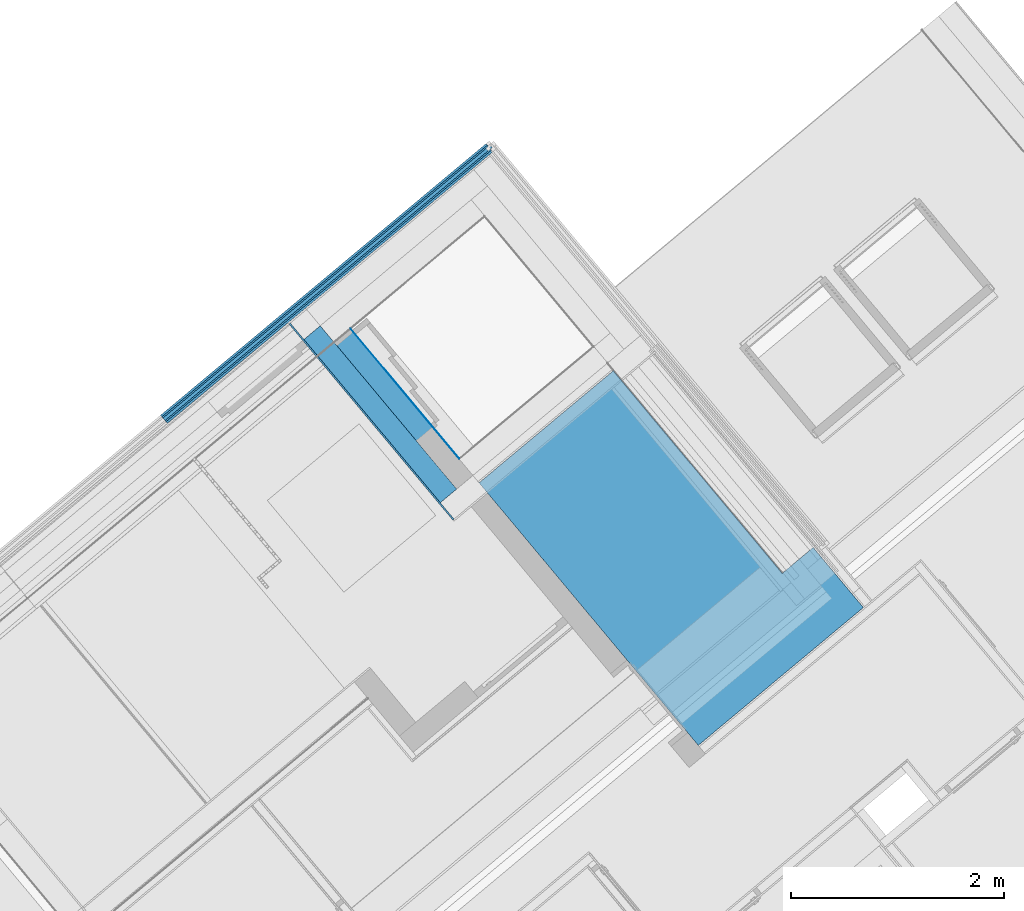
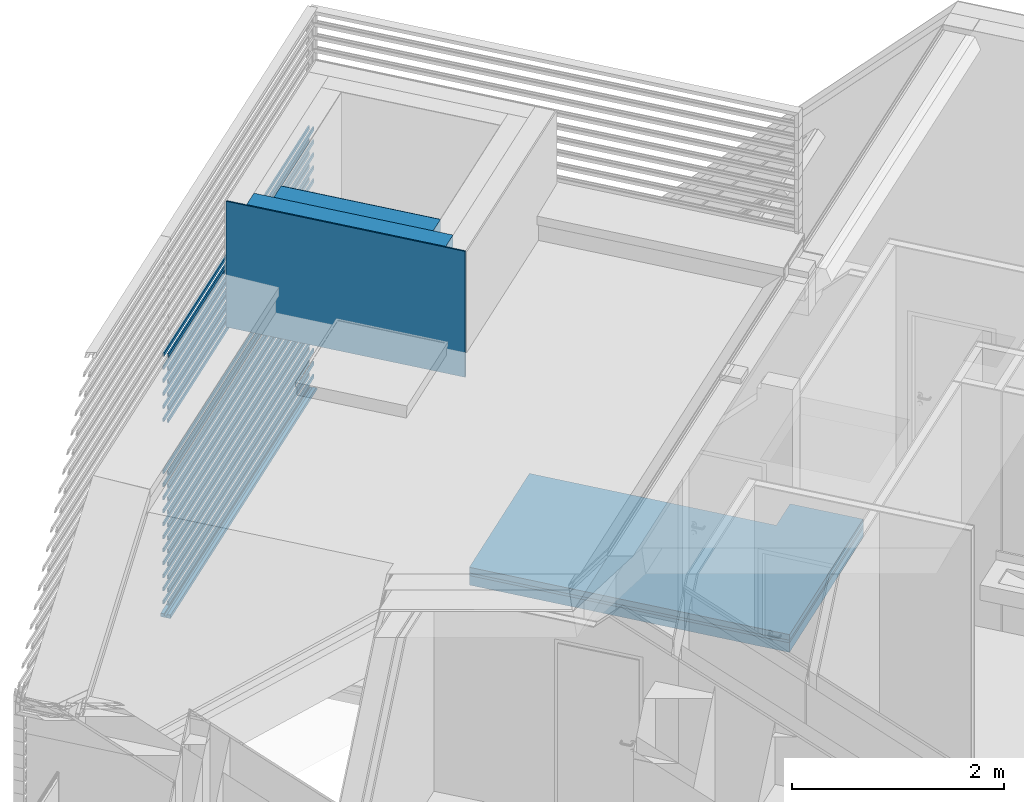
# One storey, part 28 of 50: 25 building element parts, 3 elements without a shape of their own.
"""IFC4 building model written with IfcOpenShell, lengths in metres."""

from ifc_helpers import new_model, entity, si_unit, converted_unit, derived_unit, direction, frame, origin_with_axes, place, context, subcontext, project, spatial, polygons, material, type_object, element, aggregate, save


model = new_model("IFC4")

# Units and contexts
model_context = context("Model", 3, precision=1e-05, world=origin_with_axes(), true_north=direction((0.0, 1.0)))
body_context = subcontext(model_context, "Body", "Model", "MODEL_VIEW")
ifc_project = project(units=[si_unit("LENGTHUNIT", "METRE"), si_unit("AREAUNIT", "SQUARE_METRE"), si_unit("VOLUMEUNIT", "CUBIC_METRE"), converted_unit("PLANEANGLEUNIT", "DEGREE", entity("IfcPlaneAngleMeasure", 0.0174532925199), si_unit("PLANEANGLEUNIT", "RADIAN"), dimensions=[0, 0, 0, 0, 0, 0, 0]), converted_unit("TIMEUNIT", "Year", entity("IfcTimeMeasure", 31556926.0), si_unit("TIMEUNIT", "SECOND"), dimensions=[0, 0, 1, 0, 0, 0, 0]), si_unit("MASSUNIT", "GRAM", prefix="KILO"), si_unit("THERMODYNAMICTEMPERATUREUNIT", "DEGREE_CELSIUS"), si_unit("LUMINOUSINTENSITYUNIT", "LUMEN"), si_unit("ENERGYUNIT", "JOULE", prefix="MEGA"), derived_unit("THERMALCONDUCTANCEUNIT", [(si_unit("POWERUNIT", "WATT"), 1), (si_unit("LENGTHUNIT", "METRE"), -1), (si_unit("THERMODYNAMICTEMPERATUREUNIT", "KELVIN"), -1)]), derived_unit("SPECIFICHEATCAPACITYUNIT", [(si_unit("ENERGYUNIT", "JOULE"), 1), (si_unit("MASSUNIT", "GRAM", prefix="KILO"), -1), (si_unit("THERMODYNAMICTEMPERATUREUNIT", "KELVIN"), -1)]), derived_unit("MASSDENSITYUNIT", [(si_unit("MASSUNIT", "GRAM", prefix="KILO"), 1), (si_unit("VOLUMEUNIT", "CUBIC_METRE"), -1)])], contexts=[model_context])

# Site, building, storey, space
site_placement = place(None, frame((-0.00153261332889, -0.00661245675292, 0.0), z_axis=(0.0, 0.0, 1.0), x_axis=(1.0, 0.0, 0.0)))
site = spatial("IfcSite", under=ifc_project, at=site_placement, Name="Gelände", CompositionType="ELEMENT")
building_placement = place(site_placement, origin_with_axes())
building = spatial("IfcBuilding", under=site, at=building_placement, Name="Gebäude", CompositionType="ELEMENT")
storey_placement = place(building_placement, frame((0.0, 0.0, 8.66), z_axis=(0.0, 0.0, 1.0), x_axis=(1.0, 0.0, 0.0)))
storey = spatial("IfcBuildingStorey", under=building, at=storey_placement, Name="DG2", CompositionType="ELEMENT", Elevation=8.66)
space_1_placement = place(storey_placement, frame((2.62853065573, 25.842931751, 0.00145373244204), z_axis=(0.0, 0.0, 1.0), x_axis=(-0.641209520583, 0.767365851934, 0.0)))
space_1 = spatial("IfcSpace", under=storey, at=space_1_placement, CompositionType="ELEMENT", PredefinedType="NOTDEFINED")

# Wall, building element parts
wall_type = type_object("IfcWallType", Name="AW EG 420", PredefinedType="NOTDEFINED")
wall_placement = place(space_1_placement, frame((-2.89194951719e-06, 1.64863602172, 2.68854626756), z_axis=(0.0, 0.0, 1.0), x_axis=(0.999999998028, -6.27933155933e-05, 0.0)))
wall = element("IfcWall", 1, at=wall_placement, inside=space_1, type_object=wall_type, Name="Wand-002", PredefinedType="NOTDEFINED")
ifc_material_1 = material(Name="Zementputz")
building_element_part_1_placement = place(wall_placement, origin_with_axes())
building_element_part_1 = element("IfcBuildingElementPart", 2, at=building_element_part_1_placement, material=ifc_material_1, Name="Zementputz", PredefinedType="NOTDEFINED", context=body_context, shape_type="Tessellation", body=[
    polygons([(2.00111863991, 0.415, 1.45), (-0.400033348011, 0.415, 1.45), (-0.400032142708, 0.4, 1.45), (2.00111958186, 0.4, 1.45), (2.00111863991, 0.415, 0.0), (-0.400033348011, 0.415, 0.0), (-0.400032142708, 0.4, 0.0), (2.00111958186, 0.4, 0.0)], [[[1, 2, 3, 4]], [[5, 6, 2, 1]], [[3, 2, 6, 7]], [[4, 3, 7, 8]], [[4, 8, 5, 1]], [[8, 7, 6, 5]]], closed=True),
])
ifc_material_2 = material(Name="EPS 1")
building_element_part_2_placement = place(wall_placement, origin_with_axes())
building_element_part_2 = element("IfcBuildingElementPart", 3, at=building_element_part_2_placement, material=ifc_material_2, Name="EPS 1", PredefinedType="NOTDEFINED", context=body_context, shape_type="Tessellation", body=[
    polygons([(1.80111958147, 0.4, 1.45), (-0.200032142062, 0.4, 1.45), (-0.200016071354, 0.2, 1.45), (1.80113214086, 0.2, 1.45), (1.80111958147, 0.4, 0.0), (-0.200032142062, 0.4, 0.0), (-0.200016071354, 0.2, 0.0), (1.80113214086, 0.2, 0.0)], [[[1, 2, 3, 4]], [[5, 6, 2, 1]], [[3, 2, 6, 7]], [[4, 3, 7, 8]], [[4, 8, 5, 1]], [[8, 7, 6, 5]]], closed=True),
])
ifc_material_3 = material(Name="Stahlbeton Wand")
building_element_part_3_placement = place(wall_placement, origin_with_axes())
building_element_part_3 = element("IfcBuildingElementPart", 4, at=building_element_part_3_placement, material=ifc_material_3, Name="Stahlbeton Wand", PredefinedType="NOTDEFINED", context=body_context, shape_type="Tessellation", body=[
    polygons([(1.60113214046, 0.2, 1.45), (-1.60707081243e-05, 0.2, 1.45), (0.0, 0.0, 1.45), (1.60114469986, 0.0, 1.45), (1.60113214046, 0.2, 0.0), (-1.60707081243e-05, 0.2, 0.0), (0.0, 0.0, 0.0), (1.60114469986, 0.0, 0.0)], [[[1, 2, 3, 4]], [[5, 6, 2, 1]], [[3, 2, 6, 7]], [[4, 3, 7, 8]], [[4, 8, 5, 1]], [[8, 7, 6, 5]]], closed=True),
])
building_element_part_4_placement = place(wall_placement, origin_with_axes())
building_element_part_4 = element("IfcBuildingElementPart", 5, at=building_element_part_4_placement, material=ifc_material_1, Name="Zementputz", PredefinedType="NOTDEFINED", context=body_context, shape_type="Tessellation", body=[
    polygons([(1.59614469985, 0.0, 1.45), (0.00500000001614, 0.0, 1.45), (0.00500040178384, -0.005, 1.45), (1.59614501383, -0.005, 1.45), (1.59614469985, 0.0, 0.0), (0.00500000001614, 0.0, 0.0), (0.00500040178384, -0.005, 0.0), (1.59614501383, -0.005, 0.0)], [[[1, 2, 3, 4]], [[5, 6, 2, 1]], [[3, 2, 6, 7]], [[4, 3, 7, 8]], [[4, 8, 5, 1]], [[8, 7, 6, 5]]], closed=True),
])
aggregate(wall, [building_element_part_1, building_element_part_2, building_element_part_3, building_element_part_4])

# Covering, building element parts
covering_type = type_object("IfcCoveringType", Name="DE 01 Decke Wohnung/Wohnung Fließen 220", PredefinedType="NOTDEFINED")
covering_placement = place(storey_placement, frame((3.60991174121, 22.0934424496, 0.22), z_axis=(0.0, 0.0, 1.0), x_axis=(1.0, 0.0, 0.0)))
covering = element("IfcCovering", 6, at=covering_placement, inside=storey, type_object=covering_type, Name="Decke-004", PredefinedType="NOTDEFINED")
ifc_material_4 = material(Name="Estrich")
building_element_part_5_placement = place(covering_placement, origin_with_axes())
building_element_part_5 = element("IfcBuildingElementPart", 7, at=building_element_part_5_placement, material=ifc_material_4, Name="Estrich", PredefinedType="NOTDEFINED", context=body_context, shape_type="Tessellation", body=[
    polygons([(1.08078187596, 1.86196508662, -0.08), (1.08078187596, 1.86196508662, -0.015), (1.55327238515, 1.29666046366, -0.015), (1.55327238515, 1.29666046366, -0.08), (0.791211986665, 1.62021476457, -0.08), (0.791211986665, 1.62021476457, -0.015), (-0.798520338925, 3.52440504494, -0.015), (-2.06187332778, 2.46976717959, -0.015), (-1.03746435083, 1.24278079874, -0.015), (-1.02789098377, 1.23123293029, -0.015), (0.0, 0.0, -0.015), (0.0, 0.0, -0.08), (-1.02785167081, 1.23126574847, -0.08), (-1.03750400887, 1.2427476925, -0.08), (-2.06187332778, 2.46976717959, -0.08), (-0.798520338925, 3.52440504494, -0.08)], [[[1, 2, 3, 4]], [[2, 1, 5, 6]], [[2, 6, 7, 8, 9, 10, 11, 3]], [[3, 11, 12, 4]], [[1, 4, 12, 13, 14, 15, 16, 5]], [[16, 7, 6, 5]], [[8, 7, 16, 15]], [[8, 15, 9]], [[9, 14, 10]], [[11, 10, 12]], [[13, 12, 10]], [[13, 10, 14]], [[14, 9, 15]]], closed=True),
])
ifc_material_5 = material(Name="Trittschalldämmung")
building_element_part_6_placement = place(covering_placement, origin_with_axes())
building_element_part_6 = element("IfcBuildingElementPart", 8, at=building_element_part_6_placement, material=ifc_material_5, Name="Trittschalldämmung", PredefinedType="NOTDEFINED", context=body_context, shape_type="Tessellation", body=[
    polygons([(1.08078187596, 1.86196508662, -0.11), (1.08078187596, 1.86196508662, -0.08), (1.55327238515, 1.29666046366, -0.08), (1.55327238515, 1.29666046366, -0.11), (0.791211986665, 1.62021476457, -0.11), (0.791211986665, 1.62021476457, -0.08), (-0.798520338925, 3.52440504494, -0.08), (-2.06187332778, 2.46976717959, -0.08), (-1.03746435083, 1.24278079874, -0.08), (-1.02789098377, 1.23123293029, -0.08), (0.0, 0.0, -0.08), (0.0, 0.0, -0.11), (-1.02785167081, 1.23126574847, -0.11), (-1.03750400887, 1.2427476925, -0.11), (-2.06187332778, 2.46976717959, -0.11), (-0.798520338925, 3.52440504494, -0.11)], [[[1, 2, 3, 4]], [[2, 1, 5, 6]], [[2, 6, 7, 8, 9, 10, 11, 3]], [[3, 11, 12, 4]], [[1, 4, 12, 13, 14, 15, 16, 5]], [[16, 7, 6, 5]], [[8, 7, 16, 15]], [[8, 15, 9]], [[9, 14, 10]], [[11, 10, 12]], [[13, 12, 10]], [[13, 10, 14]], [[14, 9, 15]]], closed=True),
])
ifc_material_6 = material(Name="Schüttung")
building_element_part_7_placement = place(covering_placement, origin_with_axes())
building_element_part_7 = element("IfcBuildingElementPart", 9, at=building_element_part_7_placement, material=ifc_material_6, Name="Schüttung", PredefinedType="NOTDEFINED", context=body_context, shape_type="Tessellation", body=[
    polygons([(1.08078187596, 1.86196508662, -0.22), (1.08078187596, 1.86196508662, -0.11), (1.55327238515, 1.29666046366, -0.11), (1.55327238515, 1.29666046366, -0.22), (0.791211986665, 1.62021476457, -0.22), (0.791211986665, 1.62021476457, -0.11), (-0.798520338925, 3.52440504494, -0.11), (-2.06187332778, 2.46976717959, -0.11), (-1.03746435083, 1.24278079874, -0.11), (-1.02789098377, 1.23123293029, -0.11), (0.0, 0.0, -0.11), (0.0, 0.0, -0.22), (-1.02785167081, 1.23126574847, -0.22), (-1.03750400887, 1.2427476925, -0.22), (-2.06187332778, 2.46976717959, -0.22), (-0.798520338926, 3.52440504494, -0.22)], [[[1, 2, 3, 4]], [[2, 1, 5, 6]], [[2, 6, 7, 8, 9, 10, 11, 3]], [[4, 3, 11, 12]], [[1, 4, 12, 13, 14, 15, 16, 5]], [[16, 7, 6, 5]], [[8, 7, 16, 15]], [[8, 15, 9]], [[9, 14, 10]], [[11, 10, 12]], [[13, 12, 10]], [[13, 10, 14]], [[14, 9, 15]]], closed=True),
])
aggregate(covering, [building_element_part_5, building_element_part_6, building_element_part_7])

# Space
space_2_placement = place(storey_placement, frame((-4.06558748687, 22.1637970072, 0.22), z_axis=(0.0, 0.0, 1.0), x_axis=(-0.767365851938, -0.641209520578, 0.0)))
space_2 = spatial("IfcSpace", under=storey, at=space_2_placement, CompositionType="ELEMENT", PredefinedType="NOTDEFINED")

# Curtain wall, building element parts
curtain_wall_type = type_object("IfcCurtainWallType", Name="Fassadentyp", PredefinedType="NOTDEFINED")
curtain_wall_placement = place(space_2_placement, frame((-1.95298492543, -0.601365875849, 0.1), z_axis=(0.0, 0.0, 1.0), x_axis=(-0.767365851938, 0.641209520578, 0.0)))
curtain_wall = element("IfcCurtainWall", 10, at=curtain_wall_placement, inside=space_2, type_object=curtain_wall_type, Name="Fassade-001", PredefinedType="NOTDEFINED")
ifc_material_7 = material(Name="Blech")
building_element_part_8_placement = place(curtain_wall_placement, origin_with_axes())
building_element_part_8 = element("IfcBuildingElementPart", 11, at=building_element_part_8_placement, material=ifc_material_7, Name="Blech", PredefinedType="NOTDEFINED", context=body_context, shape_type="Tessellation", body=[
    polygons([(4.62335524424, 3.83828163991, 0.0), (4.60799902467, 3.8254681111, 0.02), (4.63042270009, 3.79859472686, 0.02), (4.66113513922, 3.82422178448, -0.02), (4.59706749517, 3.90100288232, -0.02), (4.56635505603, 3.8753758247, 0.02), (4.58877873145, 3.84850244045, 0.02), (4.60413495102, 3.86131596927, 0.0), (1.54752517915, 1.27174910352, 0.0), (1.54752517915, 1.27174910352, 0.02), (1.56994885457, 1.24487571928, 0.02), (1.56994885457, 1.24487571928, -0.02), (1.50588121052, 1.32165681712, -0.02), (1.50588121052, 1.32165681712, 0.02), (1.52830488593, 1.29478343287, 0.02), (1.52830488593, 1.29478343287, 0.0)], [[[1, 2, 3, 4, 5, 6, 7, 8]], [[1, 9, 10, 2]], [[10, 11, 3, 2]], [[11, 12, 4, 3]], [[12, 13, 5, 4]], [[13, 14, 6, 5]], [[7, 6, 14, 15]], [[15, 16, 8, 7]], [[8, 16, 9, 1]], [[9, 16, 15, 14, 13, 12, 11, 10]]], closed=True),
])
building_element_part_9_placement = place(curtain_wall_placement, origin_with_axes())
building_element_part_9 = element("IfcBuildingElementPart", 12, at=building_element_part_9_placement, material=ifc_material_7, Name="Blech", PredefinedType="NOTDEFINED", context=body_context, shape_type="Tessellation", body=[
    polygons([(1.54752517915, 1.27174910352, 2.4), (1.54752517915, 1.27174910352, 2.42), (4.60799902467, 3.8254681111, 2.42), (4.60799902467, 3.8254681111, 2.4), (4.60799902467, 3.8254681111, 2.38), (1.54752517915, 1.27174910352, 2.38), (1.55713532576, 1.26023193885, 2.38), (1.55713532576, 1.26023193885, 2.42), (4.61760917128, 3.81395094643, 2.42), (4.61760917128, 3.81395094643, 2.38)], [[[1, 2, 3, 4, 5, 6]], [[6, 7, 8, 2, 1]], [[3, 2, 8, 9]], [[4, 3, 9, 10, 5]], [[5, 10, 7, 6]], [[9, 8, 7, 10]]], closed=True),
    polygons([(4.58877873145, 3.84850244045, 2.38), (4.57916858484, 3.86001960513, 2.38), (4.57916858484, 3.86001960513, 2.42), (4.58877873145, 3.84850244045, 2.42), (4.58877873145, 3.84850244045, 2.4), (1.52830488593, 1.29478343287, 2.38), (1.51869473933, 1.30630059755, 2.38), (1.51869473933, 1.30630059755, 2.42), (1.52830488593, 1.29478343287, 2.42), (1.52830488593, 1.29478343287, 2.4)], [[[1, 2, 3, 4, 5]], [[6, 7, 2, 1]], [[2, 7, 8, 3]], [[9, 4, 3, 8]], [[5, 4, 9, 10, 6, 1]], [[10, 9, 8, 7, 6]]], closed=True),
])
building_element_part_10_placement = place(curtain_wall_placement, origin_with_axes())
building_element_part_10 = element("IfcBuildingElementPart", 13, at=building_element_part_10_placement, material=ifc_material_7, Name="Blech", PredefinedType="NOTDEFINED", context=body_context, shape_type="Tessellation", body=[
    polygons([(1.54752517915, 1.27174910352, 0.15), (1.54752517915, 1.27174910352, 0.17), (4.60799902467, 3.8254681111, 0.17), (4.60799902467, 3.8254681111, 0.15), (4.60799902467, 3.8254681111, 0.13), (1.54752517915, 1.27174910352, 0.13), (1.55713532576, 1.26023193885, 0.13), (1.55713532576, 1.26023193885, 0.17), (4.61760917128, 3.81395094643, 0.17), (4.61760917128, 3.81395094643, 0.13)], [[[1, 2, 3, 4, 5, 6]], [[6, 7, 8, 2, 1]], [[3, 2, 8, 9]], [[4, 3, 9, 10, 5]], [[5, 10, 7, 6]], [[9, 8, 7, 10]]], closed=True),
    polygons([(4.58877873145, 3.84850244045, 0.13), (4.57916858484, 3.86001960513, 0.13), (4.57916858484, 3.86001960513, 0.17), (4.58877873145, 3.84850244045, 0.17), (4.58877873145, 3.84850244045, 0.15), (1.52830488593, 1.29478343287, 0.13), (1.51869473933, 1.30630059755, 0.13), (1.51869473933, 1.30630059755, 0.17), (1.52830488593, 1.29478343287, 0.17), (1.52830488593, 1.29478343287, 0.15)], [[[1, 2, 3, 4, 5]], [[6, 7, 2, 1]], [[2, 7, 8, 3]], [[9, 4, 3, 8]], [[5, 4, 9, 10, 6, 1]], [[10, 9, 8, 7, 6]]], closed=True),
])
building_element_part_11_placement = place(curtain_wall_placement, origin_with_axes())
building_element_part_11 = element("IfcBuildingElementPart", 14, at=building_element_part_11_placement, material=ifc_material_7, Name="Blech", PredefinedType="NOTDEFINED", context=body_context, shape_type="Tessellation", body=[
    polygons([(1.54752517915, 1.27174910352, 0.3), (1.54752517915, 1.27174910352, 0.32), (4.60799902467, 3.8254681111, 0.32), (4.60799902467, 3.8254681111, 0.3), (4.60799902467, 3.8254681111, 0.28), (1.54752517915, 1.27174910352, 0.28), (1.55713532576, 1.26023193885, 0.28), (1.55713532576, 1.26023193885, 0.32), (4.61760917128, 3.81395094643, 0.32), (4.61760917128, 3.81395094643, 0.28)], [[[1, 2, 3, 4, 5, 6]], [[6, 7, 8, 2, 1]], [[3, 2, 8, 9]], [[4, 3, 9, 10, 5]], [[5, 10, 7, 6]], [[9, 8, 7, 10]]], closed=True),
    polygons([(4.58877873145, 3.84850244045, 0.28), (4.57916858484, 3.86001960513, 0.28), (4.57916858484, 3.86001960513, 0.32), (4.58877873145, 3.84850244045, 0.32), (4.58877873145, 3.84850244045, 0.3), (1.52830488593, 1.29478343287, 0.28), (1.51869473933, 1.30630059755, 0.28), (1.51869473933, 1.30630059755, 0.32), (1.52830488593, 1.29478343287, 0.32), (1.52830488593, 1.29478343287, 0.3)], [[[1, 2, 3, 4, 5]], [[6, 7, 2, 1]], [[2, 7, 8, 3]], [[9, 4, 3, 8]], [[5, 4, 9, 10, 6, 1]], [[10, 9, 8, 7, 6]]], closed=True),
])
building_element_part_12_placement = place(curtain_wall_placement, origin_with_axes())
building_element_part_12 = element("IfcBuildingElementPart", 15, at=building_element_part_12_placement, material=ifc_material_7, Name="Blech", PredefinedType="NOTDEFINED", context=body_context, shape_type="Tessellation", body=[
    polygons([(1.54752517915, 1.27174910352, 3.0), (1.54752517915, 1.27174910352, 3.02), (4.60799902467, 3.8254681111, 3.02), (4.60799902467, 3.8254681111, 3.0), (4.60799902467, 3.8254681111, 2.98), (1.54752517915, 1.27174910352, 2.98), (1.55713532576, 1.26023193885, 2.98), (1.55713532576, 1.26023193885, 3.02), (4.61760917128, 3.81395094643, 3.02), (4.61760917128, 3.81395094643, 2.98)], [[[1, 2, 3, 4, 5, 6]], [[6, 7, 8, 2, 1]], [[3, 2, 8, 9]], [[4, 3, 9, 10, 5]], [[5, 10, 7, 6]], [[9, 8, 7, 10]]], closed=True),
    polygons([(4.58877873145, 3.84850244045, 2.98), (4.57916858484, 3.86001960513, 2.98), (4.57916858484, 3.86001960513, 3.02), (4.58877873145, 3.84850244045, 3.02), (4.58877873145, 3.84850244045, 3.0), (1.52830488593, 1.29478343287, 2.98), (1.51869473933, 1.30630059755, 2.98), (1.51869473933, 1.30630059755, 3.02), (1.52830488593, 1.29478343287, 3.02), (1.52830488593, 1.29478343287, 3.0)], [[[1, 2, 3, 4, 5]], [[6, 7, 2, 1]], [[2, 7, 8, 3]], [[9, 4, 3, 8]], [[5, 4, 9, 10, 6, 1]], [[10, 9, 8, 7, 6]]], closed=True),
])
building_element_part_13_placement = place(curtain_wall_placement, origin_with_axes())
building_element_part_13 = element("IfcBuildingElementPart", 16, at=building_element_part_13_placement, material=ifc_material_7, Name="Blech", PredefinedType="NOTDEFINED", context=body_context, shape_type="Tessellation", body=[
    polygons([(1.54752517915, 1.27174910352, 0.45), (1.54752517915, 1.27174910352, 0.47), (4.60799902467, 3.8254681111, 0.47), (4.60799902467, 3.8254681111, 0.45), (4.60799902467, 3.8254681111, 0.43), (1.54752517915, 1.27174910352, 0.43), (1.55713532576, 1.26023193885, 0.43), (1.55713532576, 1.26023193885, 0.47), (4.61760917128, 3.81395094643, 0.47), (4.61760917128, 3.81395094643, 0.43)], [[[1, 2, 3, 4, 5, 6]], [[6, 7, 8, 2, 1]], [[3, 2, 8, 9]], [[4, 3, 9, 10, 5]], [[5, 10, 7, 6]], [[9, 8, 7, 10]]], closed=True),
    polygons([(4.58877873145, 3.84850244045, 0.43), (4.57916858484, 3.86001960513, 0.43), (4.57916858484, 3.86001960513, 0.47), (4.58877873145, 3.84850244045, 0.47), (4.58877873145, 3.84850244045, 0.45), (1.52830488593, 1.29478343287, 0.43), (1.51869473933, 1.30630059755, 0.43), (1.51869473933, 1.30630059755, 0.47), (1.52830488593, 1.29478343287, 0.47), (1.52830488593, 1.29478343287, 0.45)], [[[1, 2, 3, 4, 5]], [[6, 7, 2, 1]], [[2, 7, 8, 3]], [[9, 4, 3, 8]], [[5, 4, 9, 10, 6, 1]], [[10, 9, 8, 7, 6]]], closed=True),
])
building_element_part_14_placement = place(curtain_wall_placement, origin_with_axes())
building_element_part_14 = element("IfcBuildingElementPart", 17, at=building_element_part_14_placement, material=ifc_material_7, Name="Blech", PredefinedType="NOTDEFINED", context=body_context, shape_type="Tessellation", body=[
    polygons([(1.54752517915, 1.27174910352, 2.85), (1.54752517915, 1.27174910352, 2.87), (4.60799902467, 3.8254681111, 2.87), (4.60799902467, 3.8254681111, 2.85), (4.60799902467, 3.8254681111, 2.83), (1.54752517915, 1.27174910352, 2.83), (1.55713532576, 1.26023193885, 2.83), (1.55713532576, 1.26023193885, 2.87), (4.61760917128, 3.81395094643, 2.87), (4.61760917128, 3.81395094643, 2.83)], [[[1, 2, 3, 4, 5, 6]], [[6, 7, 8, 2, 1]], [[3, 2, 8, 9]], [[4, 3, 9, 10, 5]], [[5, 10, 7, 6]], [[9, 8, 7, 10]]], closed=True),
    polygons([(4.58877873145, 3.84850244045, 2.83), (4.57916858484, 3.86001960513, 2.83), (4.57916858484, 3.86001960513, 2.87), (4.58877873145, 3.84850244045, 2.87), (4.58877873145, 3.84850244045, 2.85), (1.52830488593, 1.29478343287, 2.83), (1.51869473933, 1.30630059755, 2.83), (1.51869473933, 1.30630059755, 2.87), (1.52830488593, 1.29478343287, 2.87), (1.52830488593, 1.29478343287, 2.85)], [[[1, 2, 3, 4, 5]], [[6, 7, 2, 1]], [[2, 7, 8, 3]], [[9, 4, 3, 8]], [[5, 4, 9, 10, 6, 1]], [[10, 9, 8, 7, 6]]], closed=True),
])
building_element_part_15_placement = place(curtain_wall_placement, origin_with_axes())
building_element_part_15 = element("IfcBuildingElementPart", 18, at=building_element_part_15_placement, material=ifc_material_7, Name="Blech", PredefinedType="NOTDEFINED", context=body_context, shape_type="Tessellation", body=[
    polygons([(1.54752517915, 1.27174910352, 0.6), (1.54752517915, 1.27174910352, 0.62), (4.60799902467, 3.8254681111, 0.62), (4.60799902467, 3.8254681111, 0.6), (4.60799902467, 3.8254681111, 0.58), (1.54752517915, 1.27174910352, 0.58), (1.55713532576, 1.26023193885, 0.58), (1.55713532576, 1.26023193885, 0.62), (4.61760917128, 3.81395094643, 0.62), (4.61760917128, 3.81395094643, 0.58)], [[[1, 2, 3, 4, 5, 6]], [[6, 7, 8, 2, 1]], [[3, 2, 8, 9]], [[4, 3, 9, 10, 5]], [[5, 10, 7, 6]], [[9, 8, 7, 10]]], closed=True),
    polygons([(4.58877873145, 3.84850244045, 0.58), (4.57916858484, 3.86001960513, 0.58), (4.57916858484, 3.86001960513, 0.62), (4.58877873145, 3.84850244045, 0.62), (4.58877873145, 3.84850244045, 0.6), (1.52830488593, 1.29478343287, 0.58), (1.51869473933, 1.30630059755, 0.58), (1.51869473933, 1.30630059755, 0.62), (1.52830488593, 1.29478343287, 0.62), (1.52830488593, 1.29478343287, 0.6)], [[[1, 2, 3, 4, 5]], [[6, 7, 2, 1]], [[2, 7, 8, 3]], [[9, 4, 3, 8]], [[5, 4, 9, 10, 6, 1]], [[10, 9, 8, 7, 6]]], closed=True),
])
building_element_part_16_placement = place(curtain_wall_placement, origin_with_axes())
building_element_part_16 = element("IfcBuildingElementPart", 19, at=building_element_part_16_placement, material=ifc_material_7, Name="Blech", PredefinedType="NOTDEFINED", context=body_context, shape_type="Tessellation", body=[
    polygons([(1.54752517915, 1.27174910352, 0.75), (1.54752517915, 1.27174910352, 0.77), (4.60799902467, 3.8254681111, 0.77), (4.60799902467, 3.8254681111, 0.75), (4.60799902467, 3.8254681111, 0.73), (1.54752517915, 1.27174910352, 0.73), (1.55713532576, 1.26023193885, 0.73), (1.55713532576, 1.26023193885, 0.77), (4.61760917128, 3.81395094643, 0.77), (4.61760917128, 3.81395094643, 0.73)], [[[1, 2, 3, 4, 5, 6]], [[6, 7, 8, 2, 1]], [[3, 2, 8, 9]], [[4, 3, 9, 10, 5]], [[5, 10, 7, 6]], [[9, 8, 7, 10]]], closed=True),
    polygons([(4.58877873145, 3.84850244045, 0.73), (4.57916858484, 3.86001960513, 0.73), (4.57916858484, 3.86001960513, 0.77), (4.58877873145, 3.84850244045, 0.77), (4.58877873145, 3.84850244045, 0.75), (1.52830488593, 1.29478343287, 0.73), (1.51869473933, 1.30630059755, 0.73), (1.51869473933, 1.30630059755, 0.77), (1.52830488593, 1.29478343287, 0.77), (1.52830488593, 1.29478343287, 0.75)], [[[1, 2, 3, 4, 5]], [[6, 7, 2, 1]], [[2, 7, 8, 3]], [[9, 4, 3, 8]], [[5, 4, 9, 10, 6, 1]], [[10, 9, 8, 7, 6]]], closed=True),
])
building_element_part_17_placement = place(curtain_wall_placement, origin_with_axes())
building_element_part_17 = element("IfcBuildingElementPart", 20, at=building_element_part_17_placement, material=ifc_material_7, Name="Blech", PredefinedType="NOTDEFINED", context=body_context, shape_type="Tessellation", body=[
    polygons([(1.54752517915, 1.27174910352, 0.9), (1.54752517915, 1.27174910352, 0.92), (4.60799902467, 3.8254681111, 0.92), (4.60799902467, 3.8254681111, 0.9), (4.60799902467, 3.8254681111, 0.88), (1.54752517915, 1.27174910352, 0.88), (1.55713532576, 1.26023193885, 0.88), (1.55713532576, 1.26023193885, 0.92), (4.61760917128, 3.81395094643, 0.92), (4.61760917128, 3.81395094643, 0.88)], [[[1, 2, 3, 4, 5, 6]], [[6, 7, 8, 2, 1]], [[3, 2, 8, 9]], [[4, 3, 9, 10, 5]], [[5, 10, 7, 6]], [[9, 8, 7, 10]]], closed=True),
    polygons([(4.58877873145, 3.84850244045, 0.88), (4.57916858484, 3.86001960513, 0.88), (4.57916858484, 3.86001960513, 0.92), (4.58877873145, 3.84850244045, 0.92), (4.58877873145, 3.84850244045, 0.9), (1.52830488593, 1.29478343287, 0.88), (1.51869473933, 1.30630059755, 0.88), (1.51869473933, 1.30630059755, 0.92), (1.52830488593, 1.29478343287, 0.92), (1.52830488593, 1.29478343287, 0.9)], [[[1, 2, 3, 4, 5]], [[6, 7, 2, 1]], [[2, 7, 8, 3]], [[9, 4, 3, 8]], [[5, 4, 9, 10, 6, 1]], [[10, 9, 8, 7, 6]]], closed=True),
])
building_element_part_18_placement = place(curtain_wall_placement, origin_with_axes())
building_element_part_18 = element("IfcBuildingElementPart", 21, at=building_element_part_18_placement, material=ifc_material_7, Name="Blech", PredefinedType="NOTDEFINED", context=body_context, shape_type="Tessellation", body=[
    polygons([(1.54752517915, 1.27174910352, 1.05), (1.54752517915, 1.27174910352, 1.07), (4.60799902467, 3.8254681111, 1.07), (4.60799902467, 3.8254681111, 1.05), (4.60799902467, 3.8254681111, 1.03), (1.54752517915, 1.27174910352, 1.03), (1.55713532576, 1.26023193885, 1.03), (1.55713532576, 1.26023193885, 1.07), (4.61760917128, 3.81395094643, 1.07), (4.61760917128, 3.81395094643, 1.03)], [[[1, 2, 3, 4, 5, 6]], [[6, 7, 8, 2, 1]], [[3, 2, 8, 9]], [[4, 3, 9, 10, 5]], [[5, 10, 7, 6]], [[9, 8, 7, 10]]], closed=True),
    polygons([(4.58877873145, 3.84850244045, 1.03), (4.57916858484, 3.86001960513, 1.03), (4.57916858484, 3.86001960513, 1.07), (4.58877873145, 3.84850244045, 1.07), (4.58877873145, 3.84850244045, 1.05), (1.52830488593, 1.29478343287, 1.03), (1.51869473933, 1.30630059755, 1.03), (1.51869473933, 1.30630059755, 1.07), (1.52830488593, 1.29478343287, 1.07), (1.52830488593, 1.29478343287, 1.05)], [[[1, 2, 3, 4, 5]], [[6, 7, 2, 1]], [[2, 7, 8, 3]], [[9, 4, 3, 8]], [[5, 4, 9, 10, 6, 1]], [[10, 9, 8, 7, 6]]], closed=True),
])
building_element_part_19_placement = place(curtain_wall_placement, origin_with_axes())
building_element_part_19 = element("IfcBuildingElementPart", 22, at=building_element_part_19_placement, material=ifc_material_7, Name="Blech", PredefinedType="NOTDEFINED", context=body_context, shape_type="Tessellation", body=[
    polygons([(1.54752517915, 1.27174910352, 2.7), (1.54752517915, 1.27174910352, 2.72), (4.60799902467, 3.8254681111, 2.72), (4.60799902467, 3.8254681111, 2.7), (4.60799902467, 3.8254681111, 2.68), (1.54752517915, 1.27174910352, 2.68), (1.55713532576, 1.26023193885, 2.68), (1.55713532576, 1.26023193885, 2.72), (4.61760917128, 3.81395094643, 2.72), (4.61760917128, 3.81395094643, 2.68)], [[[1, 2, 3, 4, 5, 6]], [[6, 7, 8, 2, 1]], [[3, 2, 8, 9]], [[4, 3, 9, 10, 5]], [[5, 10, 7, 6]], [[9, 8, 7, 10]]], closed=True),
    polygons([(4.58877873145, 3.84850244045, 2.68), (4.57916858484, 3.86001960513, 2.68), (4.57916858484, 3.86001960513, 2.72), (4.58877873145, 3.84850244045, 2.72), (4.58877873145, 3.84850244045, 2.7), (1.52830488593, 1.29478343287, 2.68), (1.51869473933, 1.30630059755, 2.68), (1.51869473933, 1.30630059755, 2.72), (1.52830488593, 1.29478343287, 2.72), (1.52830488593, 1.29478343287, 2.7)], [[[1, 2, 3, 4, 5]], [[6, 7, 2, 1]], [[2, 7, 8, 3]], [[9, 4, 3, 8]], [[5, 4, 9, 10, 6, 1]], [[10, 9, 8, 7, 6]]], closed=True),
])
building_element_part_20_placement = place(curtain_wall_placement, origin_with_axes())
building_element_part_20 = element("IfcBuildingElementPart", 23, at=building_element_part_20_placement, material=ifc_material_7, Name="Blech", PredefinedType="NOTDEFINED", context=body_context, shape_type="Tessellation", body=[
    polygons([(1.54752517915, 1.27174910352, 1.2), (1.54752517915, 1.27174910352, 1.22), (4.60799902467, 3.8254681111, 1.22), (4.60799902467, 3.8254681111, 1.2), (4.60799902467, 3.8254681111, 1.18), (1.54752517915, 1.27174910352, 1.18), (1.55713532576, 1.26023193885, 1.18), (1.55713532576, 1.26023193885, 1.22), (4.61760917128, 3.81395094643, 1.22), (4.61760917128, 3.81395094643, 1.18)], [[[1, 2, 3, 4, 5, 6]], [[6, 7, 8, 2, 1]], [[3, 2, 8, 9]], [[4, 3, 9, 10, 5]], [[5, 10, 7, 6]], [[9, 8, 7, 10]]], closed=True),
    polygons([(4.58877873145, 3.84850244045, 1.18), (4.57916858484, 3.86001960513, 1.18), (4.57916858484, 3.86001960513, 1.22), (4.58877873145, 3.84850244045, 1.22), (4.58877873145, 3.84850244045, 1.2), (1.52830488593, 1.29478343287, 1.18), (1.51869473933, 1.30630059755, 1.18), (1.51869473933, 1.30630059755, 1.22), (1.52830488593, 1.29478343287, 1.22), (1.52830488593, 1.29478343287, 1.2)], [[[1, 2, 3, 4, 5]], [[6, 7, 2, 1]], [[2, 7, 8, 3]], [[9, 4, 3, 8]], [[5, 4, 9, 10, 6, 1]], [[10, 9, 8, 7, 6]]], closed=True),
])
building_element_part_21_placement = place(curtain_wall_placement, origin_with_axes())
building_element_part_21 = element("IfcBuildingElementPart", 24, at=building_element_part_21_placement, material=ifc_material_7, Name="Blech", PredefinedType="NOTDEFINED", context=body_context, shape_type="Tessellation", body=[
    polygons([(1.54752517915, 1.27174910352, 1.35), (1.54752517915, 1.27174910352, 1.37), (4.60799902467, 3.8254681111, 1.37), (4.60799902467, 3.8254681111, 1.35), (4.60799902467, 3.8254681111, 1.33), (1.54752517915, 1.27174910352, 1.33), (1.55713532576, 1.26023193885, 1.33), (1.55713532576, 1.26023193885, 1.37), (4.61760917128, 3.81395094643, 1.37), (4.61760917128, 3.81395094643, 1.33)], [[[1, 2, 3, 4, 5, 6]], [[6, 7, 8, 2, 1]], [[3, 2, 8, 9]], [[4, 3, 9, 10, 5]], [[5, 10, 7, 6]], [[9, 8, 7, 10]]], closed=True),
    polygons([(4.58877873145, 3.84850244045, 1.33), (4.57916858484, 3.86001960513, 1.33), (4.57916858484, 3.86001960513, 1.37), (4.58877873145, 3.84850244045, 1.37), (4.58877873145, 3.84850244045, 1.35), (1.52830488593, 1.29478343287, 1.33), (1.51869473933, 1.30630059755, 1.33), (1.51869473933, 1.30630059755, 1.37), (1.52830488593, 1.29478343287, 1.37), (1.52830488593, 1.29478343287, 1.35)], [[[1, 2, 3, 4, 5]], [[6, 7, 2, 1]], [[2, 7, 8, 3]], [[9, 4, 3, 8]], [[5, 4, 9, 10, 6, 1]], [[10, 9, 8, 7, 6]]], closed=True),
])
building_element_part_22_placement = place(curtain_wall_placement, origin_with_axes())
building_element_part_22 = element("IfcBuildingElementPart", 25, at=building_element_part_22_placement, material=ifc_material_7, Name="Blech", PredefinedType="NOTDEFINED", context=body_context, shape_type="Tessellation", body=[
    polygons([(1.54752517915, 1.27174910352, 2.25), (1.54752517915, 1.27174910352, 2.27), (4.60799902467, 3.8254681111, 2.27), (4.60799902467, 3.8254681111, 2.25), (4.60799902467, 3.8254681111, 2.23), (1.54752517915, 1.27174910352, 2.23), (1.55713532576, 1.26023193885, 2.23), (1.55713532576, 1.26023193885, 2.27), (4.61760917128, 3.81395094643, 2.27), (4.61760917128, 3.81395094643, 2.23)], [[[1, 2, 3, 4, 5, 6]], [[6, 7, 8, 2, 1]], [[3, 2, 8, 9]], [[4, 3, 9, 10, 5]], [[5, 10, 7, 6]], [[9, 8, 7, 10]]], closed=True),
    polygons([(4.58877873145, 3.84850244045, 2.23), (4.57916858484, 3.86001960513, 2.23), (4.57916858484, 3.86001960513, 2.27), (4.58877873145, 3.84850244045, 2.27), (4.58877873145, 3.84850244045, 2.25), (1.52830488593, 1.29478343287, 2.23), (1.51869473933, 1.30630059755, 2.23), (1.51869473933, 1.30630059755, 2.27), (1.52830488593, 1.29478343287, 2.27), (1.52830488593, 1.29478343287, 2.25)], [[[1, 2, 3, 4, 5]], [[6, 7, 2, 1]], [[2, 7, 8, 3]], [[9, 4, 3, 8]], [[5, 4, 9, 10, 6, 1]], [[10, 9, 8, 7, 6]]], closed=True),
])
building_element_part_23_placement = place(curtain_wall_placement, origin_with_axes())
building_element_part_23 = element("IfcBuildingElementPart", 26, at=building_element_part_23_placement, material=ifc_material_7, Name="Blech", PredefinedType="NOTDEFINED", context=body_context, shape_type="Tessellation", body=[
    polygons([(1.54752517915, 1.27174910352, 1.5), (1.54752517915, 1.27174910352, 1.52), (4.60799902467, 3.8254681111, 1.52), (4.60799902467, 3.8254681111, 1.5), (4.60799902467, 3.8254681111, 1.48), (1.54752517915, 1.27174910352, 1.48), (1.55713532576, 1.26023193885, 1.48), (1.55713532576, 1.26023193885, 1.52), (4.61760917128, 3.81395094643, 1.52), (4.61760917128, 3.81395094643, 1.48)], [[[1, 2, 3, 4, 5, 6]], [[6, 7, 8, 2, 1]], [[3, 2, 8, 9]], [[4, 3, 9, 10, 5]], [[5, 10, 7, 6]], [[9, 8, 7, 10]]], closed=True),
    polygons([(4.58877873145, 3.84850244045, 1.48), (4.57916858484, 3.86001960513, 1.48), (4.57916858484, 3.86001960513, 1.52), (4.58877873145, 3.84850244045, 1.52), (4.58877873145, 3.84850244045, 1.5), (1.52830488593, 1.29478343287, 1.48), (1.51869473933, 1.30630059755, 1.48), (1.51869473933, 1.30630059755, 1.52), (1.52830488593, 1.29478343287, 1.52), (1.52830488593, 1.29478343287, 1.5)], [[[1, 2, 3, 4, 5]], [[6, 7, 2, 1]], [[2, 7, 8, 3]], [[9, 4, 3, 8]], [[5, 4, 9, 10, 6, 1]], [[10, 9, 8, 7, 6]]], closed=True),
])
building_element_part_24_placement = place(curtain_wall_placement, origin_with_axes())
building_element_part_24 = element("IfcBuildingElementPart", 27, at=building_element_part_24_placement, material=ifc_material_7, Name="Blech", PredefinedType="NOTDEFINED", context=body_context, shape_type="Tessellation", body=[
    polygons([(1.54752517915, 1.27174910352, 2.55), (1.54752517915, 1.27174910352, 2.57), (4.60799902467, 3.8254681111, 2.57), (4.60799902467, 3.8254681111, 2.55), (4.60799902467, 3.8254681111, 2.53), (1.54752517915, 1.27174910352, 2.53), (1.55713532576, 1.26023193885, 2.53), (1.55713532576, 1.26023193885, 2.57), (4.61760917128, 3.81395094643, 2.57), (4.61760917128, 3.81395094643, 2.53)], [[[1, 2, 3, 4, 5, 6]], [[6, 7, 8, 2, 1]], [[3, 2, 8, 9]], [[4, 3, 9, 10, 5]], [[5, 10, 7, 6]], [[9, 8, 7, 10]]], closed=True),
    polygons([(4.58877873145, 3.84850244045, 2.53), (4.57916858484, 3.86001960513, 2.53), (4.57916858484, 3.86001960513, 2.57), (4.58877873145, 3.84850244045, 2.57), (4.58877873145, 3.84850244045, 2.55), (1.52830488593, 1.29478343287, 2.53), (1.51869473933, 1.30630059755, 2.53), (1.51869473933, 1.30630059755, 2.57), (1.52830488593, 1.29478343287, 2.57), (1.52830488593, 1.29478343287, 2.55)], [[[1, 2, 3, 4, 5]], [[6, 7, 2, 1]], [[2, 7, 8, 3]], [[9, 4, 3, 8]], [[5, 4, 9, 10, 6, 1]], [[10, 9, 8, 7, 6]]], closed=True),
])
building_element_part_25_placement = place(curtain_wall_placement, origin_with_axes())
building_element_part_25 = element("IfcBuildingElementPart", 28, at=building_element_part_25_placement, material=ifc_material_7, Name="Blech", PredefinedType="NOTDEFINED", context=body_context, shape_type="Tessellation", body=[
    polygons([(1.54752517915, 1.27174910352, 1.65), (1.54752517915, 1.27174910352, 1.67), (4.60799902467, 3.8254681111, 1.67), (4.60799902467, 3.8254681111, 1.65), (4.60799902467, 3.8254681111, 1.63), (1.54752517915, 1.27174910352, 1.63), (1.55713532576, 1.26023193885, 1.63), (1.55713532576, 1.26023193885, 1.67), (4.61760917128, 3.81395094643, 1.67), (4.61760917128, 3.81395094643, 1.63)], [[[1, 2, 3, 4, 5, 6]], [[6, 7, 8, 2, 1]], [[3, 2, 8, 9]], [[4, 3, 9, 10, 5]], [[5, 10, 7, 6]], [[9, 8, 7, 10]]], closed=True),
    polygons([(4.58877873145, 3.84850244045, 1.63), (4.57916858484, 3.86001960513, 1.63), (4.57916858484, 3.86001960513, 1.67), (4.58877873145, 3.84850244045, 1.67), (4.58877873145, 3.84850244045, 1.65), (1.52830488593, 1.29478343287, 1.63), (1.51869473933, 1.30630059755, 1.63), (1.51869473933, 1.30630059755, 1.67), (1.52830488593, 1.29478343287, 1.67), (1.52830488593, 1.29478343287, 1.65)], [[[1, 2, 3, 4, 5]], [[6, 7, 2, 1]], [[2, 7, 8, 3]], [[9, 4, 3, 8]], [[5, 4, 9, 10, 6, 1]], [[10, 9, 8, 7, 6]]], closed=True),
])
aggregate(curtain_wall, [building_element_part_8, building_element_part_9, building_element_part_10, building_element_part_11, building_element_part_12, building_element_part_13, building_element_part_14, building_element_part_15, building_element_part_16, building_element_part_17, building_element_part_18, building_element_part_19, building_element_part_20, building_element_part_21, building_element_part_22, building_element_part_23, building_element_part_24, building_element_part_25])

save(model, "model.ifc")
